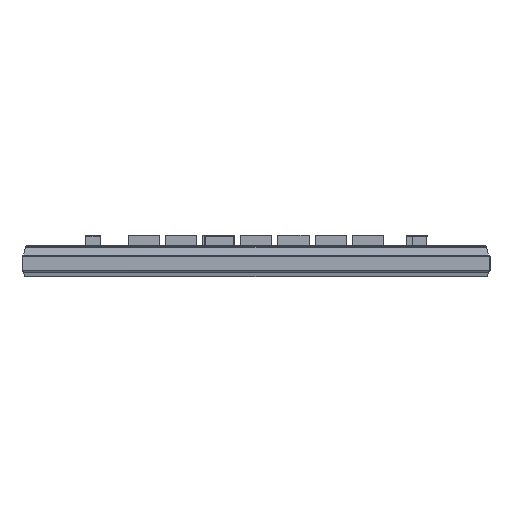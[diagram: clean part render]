
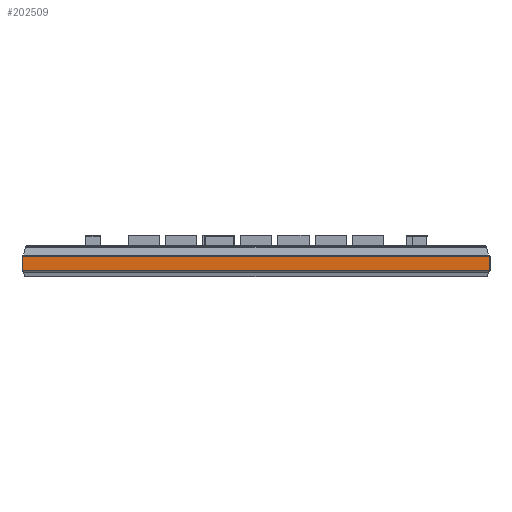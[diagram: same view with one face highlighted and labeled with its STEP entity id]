
A CAD part, left-side view. The second image highlights one B-rep face of the part: STEP entity #202509.
In plain terms, the highlighted planar face has unit normal (-1, 0, 0).
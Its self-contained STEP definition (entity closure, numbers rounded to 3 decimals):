
#4112 = EDGE_LOOP ( 'NONE', ( #140493, #124817, #146080, #155034 ) ) ;
#6359 = DIRECTION ( 'NONE',  ( 0., 0., -1. ) ) ;
#20761 = EDGE_CURVE ( 'NONE', #70647, #59264, #47459, .T. ) ;
#22919 = VECTOR ( 'NONE', #39646, 1000. ) ;
#25498 = VECTOR ( 'NONE', #6359, 1000. ) ;
#39646 = DIRECTION ( 'NONE',  ( 0., 0., -1. ) ) ;
#39825 = FACE_OUTER_BOUND ( 'NONE', #4112, .T. ) ;
#45741 = CARTESIAN_POINT ( 'NONE',  ( -7.925, 7.925, 0.695 ) ) ;
#47459 = LINE ( 'NONE', #52789, #171689 ) ;
#47598 = VERTEX_POINT ( 'NONE', #59083 ) ;
#52071 = DIRECTION ( 'NONE',  ( 0., 1., 0. ) ) ;
#52789 = CARTESIAN_POINT ( 'NONE',  ( -7.925, 10.075, 0.695 ) ) ;
#59083 = CARTESIAN_POINT ( 'NONE',  ( -7.925, 7.925, 0.193 ) ) ;
#59264 = VERTEX_POINT ( 'NONE', #45741 ) ;
#61678 = EDGE_CURVE ( 'NONE', #47598, #160719, #81126, .T. ) ;
#70647 = VERTEX_POINT ( 'NONE', #109635 ) ;
#72811 = PLANE ( 'NONE',  #83753 ) ;
#73518 = DIRECTION ( 'NONE',  ( 1., 0., 0. ) ) ;
#74816 = DIRECTION ( 'NONE',  ( 0., -1., 0. ) ) ;
#75564 = CARTESIAN_POINT ( 'NONE',  ( -7.925, 10.075, 0.193 ) ) ;
#81126 = LINE ( 'NONE', #75564, #126044 ) ;
#83753 = AXIS2_PLACEMENT_3D ( 'NONE', #174788, #73518, #191753 ) ;
#109635 = CARTESIAN_POINT ( 'NONE',  ( -7.925, -7.925, 0.695 ) ) ;
#111289 = EDGE_CURVE ( 'NONE', #70647, #160719, #160297, .T. ) ;
#124817 = ORIENTED_EDGE ( 'NONE', *, *, #61678, .T. ) ;
#125528 = EDGE_CURVE ( 'NONE', #59264, #47598, #152445, .T. ) ;
#126044 = VECTOR ( 'NONE', #74816, 1000. ) ;
#136142 = CARTESIAN_POINT ( 'NONE',  ( -7.925, -7.925, 0.193 ) ) ;
#140493 = ORIENTED_EDGE ( 'NONE', *, *, #125528, .T. ) ;
#140922 = CARTESIAN_POINT ( 'NONE',  ( -7.925, 7.925, 1. ) ) ;
#146080 = ORIENTED_EDGE ( 'NONE', *, *, #111289, .F. ) ;
#152445 = LINE ( 'NONE', #140922, #22919 ) ;
#155034 = ORIENTED_EDGE ( 'NONE', *, *, #20761, .T. ) ;
#160297 = LINE ( 'NONE', #208460, #25498 ) ;
#160719 = VERTEX_POINT ( 'NONE', #136142 ) ;
#171689 = VECTOR ( 'NONE', #52071, 1000. ) ;
#174788 = CARTESIAN_POINT ( 'NONE',  ( -7.925, 7.925, 1. ) ) ;
#191753 = DIRECTION ( 'NONE',  ( 0., 0., -1. ) ) ;
#202509 = ADVANCED_FACE ( 'NONE', ( #39825 ), #72811, .F. ) ;
#208460 = CARTESIAN_POINT ( 'NONE',  ( -7.925, -7.925, 1. ) ) ;
